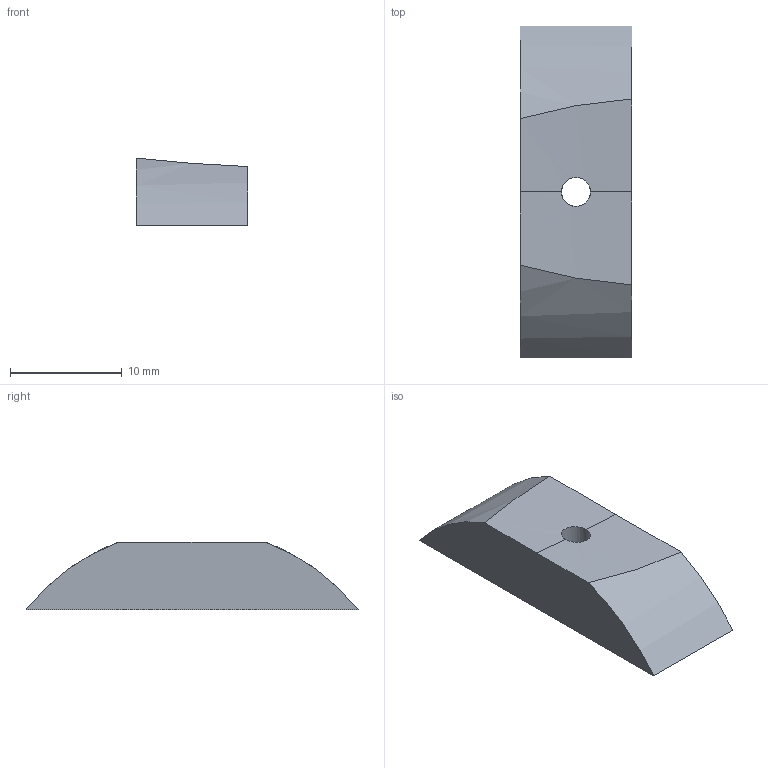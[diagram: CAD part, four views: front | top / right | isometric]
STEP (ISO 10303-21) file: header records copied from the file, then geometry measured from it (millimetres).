
FILE_DESCRIPTION(('SkyG Speed 90B - revision C6B-3 - 2026-10-08','NB1-wing-nut-bar-front'),'2;1');
FILE_NAME('NB1-wing-nut-bar-front_C6B-3','2026-10-08T03:13:11',('Author'),( 'Open CASCADE'),'Open CASCADE STEP processor 7.9','Open CASCADE 7.9' ,'Unknown');
FILE_SCHEMA(('AUTOMOTIVE_DESIGN { 1 0 10303 214 1 1 1 1 }'));
Length unit declared in the file: millimetre
Products named in the file (1): NB1-wing-nut-bar-front C6B-3
Bounding box: 10 x 29.72 x 6.07 mm (x, y, z)
Volume: 1234.5 mm3; surface area: 973 mm2
Topology: 1 solids, 1 shells, 15 faces, 38 edges, 25 vertices
Faces by surface type: plane 10, cylinder 3, bspline 2
Full cylindrical faces by diameter (mm): 2.6 x1
Entity records: 2391 total; most frequent: CARTESIAN_POINT 1683, DIRECTION 103, ORIENTED_EDGE 76, PCURVE 76, DEFINITIONAL_REPRESENTATION 76, LINE 60, VECTOR 60, B_SPLINE_CURVE_WITH_KNOTS 44
